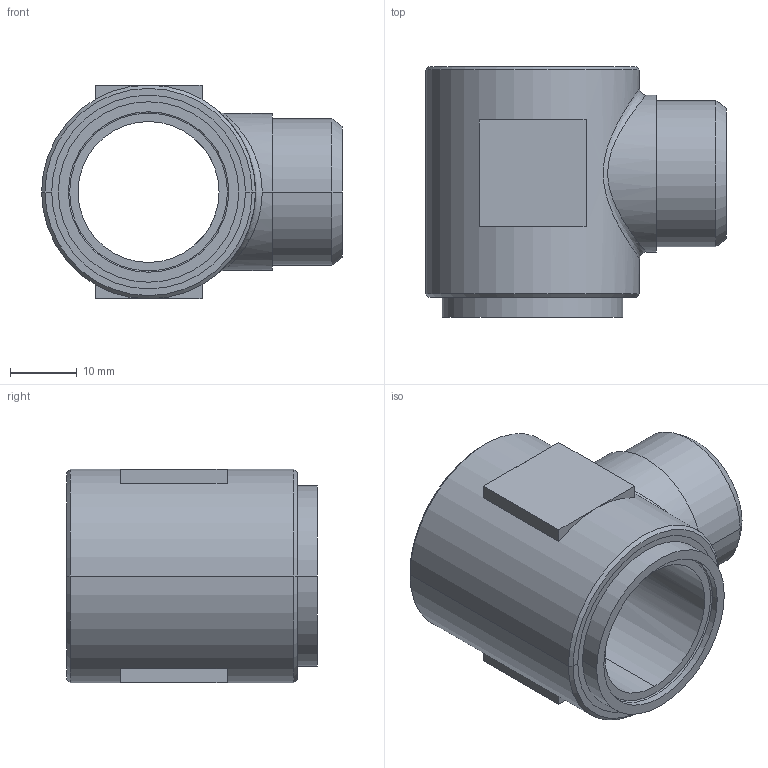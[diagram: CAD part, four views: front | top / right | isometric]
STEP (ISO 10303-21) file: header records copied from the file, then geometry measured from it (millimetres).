
FILE_DESCRIPTION((''),'2;1');
FILE_NAME('101308.stp','2007-10-30T15:41:04',(''),(''),'AutoCAD STEP 2000i','AutoCAD 2000i',', , ');
FILE_SCHEMA(('CONFIG_CONTROL_DESIGN'));
Length unit declared in the file: millimetre
Products named in the file (2): 101308.0; 1094#0
Assembly tree (1 placements, depth 2):
  101308.0
    1094#0
Bounding box: 45 x 37.5 x 32 mm (x, y, z)
Volume: 19297.5 mm3; surface area: 8721.7 mm2
Topology: 1 solids, 1 shells, 54 faces, 125 edges, 79 vertices
Faces by surface type: plane 21, cylinder 16, cone 12, bspline 5
Entity records: 2076 total; most frequent: CARTESIAN_POINT 708, DIRECTION 281, ORIENTED_EDGE 250, EDGE_CURVE 125, AXIS2_PLACEMENT_3D 114, VERTEX_POINT 79, EDGE_LOOP 64, CIRCLE 63
